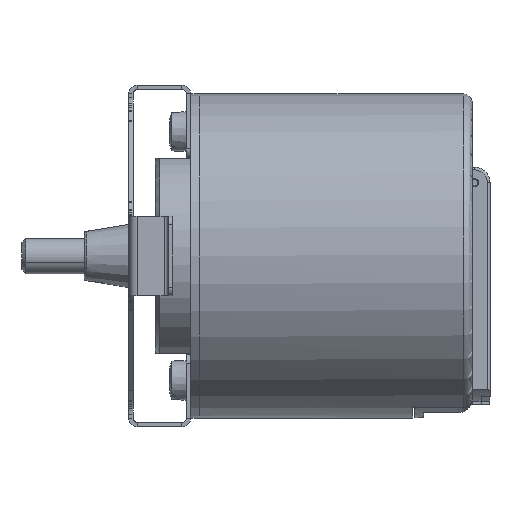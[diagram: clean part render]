
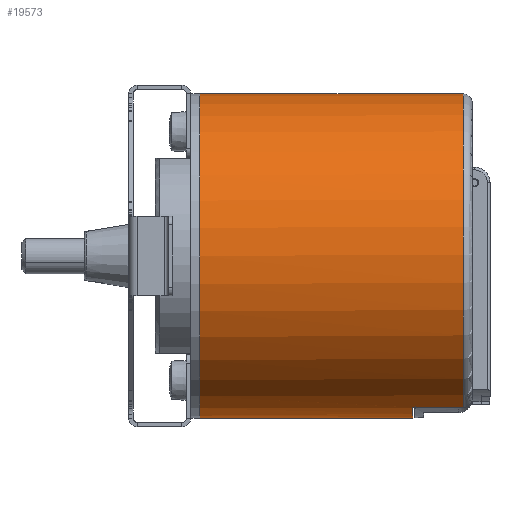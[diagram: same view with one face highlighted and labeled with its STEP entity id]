
A CAD part, front view. The second image highlights one B-rep face of the part: STEP entity #19573.
In plain terms, the highlighted cylindrical face has radius 18.25 mm (diameter 36.5 mm), a partial arc.
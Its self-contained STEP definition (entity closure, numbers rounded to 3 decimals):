
#10 = CARTESIAN_POINT ( 'NONE',  ( 29.218, -6.5, -17.053 ) ) ;
#59 = VERTEX_POINT ( 'NONE', #16660 ) ;
#149 = CARTESIAN_POINT ( 'NONE',  ( 29.03, -6.352, -17.109 ) ) ;
#527 = ORIENTED_EDGE ( 'NONE', *, *, #9268, .F. ) ;
#684 = EDGE_CURVE ( 'NONE', #11204, #59, #16759, .T. ) ;
#986 = EDGE_LOOP ( 'NONE', ( #18709, #15014, #10897, #1327, #18343, #8489, #527 ) ) ;
#1105 = CARTESIAN_POINT ( 'NONE',  ( 5., 0., 0. ) ) ;
#1327 = ORIENTED_EDGE ( 'NONE', *, *, #16029, .F. ) ;
#1708 = CARTESIAN_POINT ( 'NONE',  ( 29.139, -6.465, -17.067 ) ) ;
#1886 = CIRCLE ( 'NONE', #3994, 18.25 ) ;
#2257 = CARTESIAN_POINT ( 'NONE',  ( 5., 0., 18.25 ) ) ;
#3079 = AXIS2_PLACEMENT_3D ( 'NONE', #4991, #17091, #7872 ) ;
#3780 = LINE ( 'NONE', #17188, #19741 ) ;
#3994 = AXIS2_PLACEMENT_3D ( 'NONE', #6678, #17535, #11333 ) ;
#4204 = VERTEX_POINT ( 'NONE', #13070 ) ;
#4476 = CARTESIAN_POINT ( 'NONE',  ( 34.7, -6.5, -17.053 ) ) ;
#4833 = FACE_OUTER_BOUND ( 'NONE', #986, .T. ) ;
#4991 = CARTESIAN_POINT ( 'NONE',  ( 5., 0., 0. ) ) ;
#5657 = DIRECTION ( 'NONE',  ( -1., 0., 0. ) ) ;
#5847 = DIRECTION ( 'NONE',  ( 0., 0., 1. ) ) ;
#6678 = CARTESIAN_POINT ( 'NONE',  ( 34.7, 0., 0. ) ) ;
#6751 = LINE ( 'NONE', #12776, #7503 ) ;
#7503 = VECTOR ( 'NONE', #8252, 1000. ) ;
#7595 = CARTESIAN_POINT ( 'NONE',  ( 29., 0., 0. ) ) ;
#7673 = CARTESIAN_POINT ( 'NONE',  ( 34.7, 0., 18.25 ) ) ;
#7872 = DIRECTION ( 'NONE',  ( 0., 0., 1. ) ) ;
#7883 = AXIS2_PLACEMENT_3D ( 'NONE', #7595, #9071, #13636 ) ;
#8078 = EDGE_CURVE ( 'NONE', #17822, #12101, #6751, .T. ) ;
#8252 = DIRECTION ( 'NONE',  ( -1., 0., 0. ) ) ;
#8489 = ORIENTED_EDGE ( 'NONE', *, *, #8078, .T. ) ;
#9071 = DIRECTION ( 'NONE',  ( 1., 0., 0. ) ) ;
#9268 = EDGE_CURVE ( 'NONE', #14018, #12101, #11492, .T. ) ;
#10057 = CYLINDRICAL_SURFACE ( 'NONE', #3079, 18.25 ) ;
#10573 = AXIS2_PLACEMENT_3D ( 'NONE', #1105, #5657, #5847 ) ;
#10897 = ORIENTED_EDGE ( 'NONE', *, *, #684, .T. ) ;
#11204 = VERTEX_POINT ( 'NONE', #12342 ) ;
#11333 = DIRECTION ( 'NONE',  ( 0., 0., 1. ) ) ;
#11492 = CIRCLE ( 'NONE', #10573, 18.25 ) ;
#12101 = VERTEX_POINT ( 'NONE', #2257 ) ;
#12306 = CARTESIAN_POINT ( 'NONE',  ( 5., 0., -18.25 ) ) ;
#12308 = CARTESIAN_POINT ( 'NONE',  ( 29., -6.2, -17.165 ) ) ;
#12342 = CARTESIAN_POINT ( 'NONE',  ( 29., -6.2, -17.165 ) ) ;
#12511 = CARTESIAN_POINT ( 'NONE',  ( 29.3, -6.5, -17.053 ) ) ;
#12776 = CARTESIAN_POINT ( 'NONE',  ( 5., 0., 18.25 ) ) ;
#13070 = CARTESIAN_POINT ( 'NONE',  ( 29., 0., -18.25 ) ) ;
#13180 = EDGE_CURVE ( 'NONE', #11204, #4204, #13253, .T. ) ;
#13253 = CIRCLE ( 'NONE', #7883, 18.25 ) ;
#13636 = DIRECTION ( 'NONE',  ( 0., 0., 1. ) ) ;
#14018 = VERTEX_POINT ( 'NONE', #12306 ) ;
#14710 = CARTESIAN_POINT ( 'NONE',  ( 5., -6.5, -17.053 ) ) ;
#15014 = ORIENTED_EDGE ( 'NONE', *, *, #13180, .F. ) ;
#15721 = DIRECTION ( 'NONE',  ( -1., 0., 0. ) ) ;
#15750 = VECTOR ( 'NONE', #19232, 1000. ) ;
#16029 = EDGE_CURVE ( 'NONE', #19571, #59, #16753, .T. ) ;
#16660 = CARTESIAN_POINT ( 'NONE',  ( 29.3, -6.5, -17.053 ) ) ;
#16753 = LINE ( 'NONE', #14710, #15750 ) ;
#16759 = B_SPLINE_CURVE_WITH_KNOTS ( 'NONE', 3,
 ( #12308, #18714, #149, #1708, #10, #12511 ),
 .UNSPECIFIED., .F., .F.,
 ( 4, 2, 4 ),
 ( 0., 0., 0. ),
 .UNSPECIFIED. ) ;
#17091 = DIRECTION ( 'NONE',  ( -1., 0., 0. ) ) ;
#17188 = CARTESIAN_POINT ( 'NONE',  ( 5., 0., -18.25 ) ) ;
#17535 = DIRECTION ( 'NONE',  ( -1., 0., 0. ) ) ;
#17822 = VERTEX_POINT ( 'NONE', #7673 ) ;
#18343 = ORIENTED_EDGE ( 'NONE', *, *, #18785, .T. ) ;
#18599 = EDGE_CURVE ( 'NONE', #4204, #14018, #3780, .T. ) ;
#18709 = ORIENTED_EDGE ( 'NONE', *, *, #18599, .F. ) ;
#18714 = CARTESIAN_POINT ( 'NONE',  ( 29., -6.277, -17.137 ) ) ;
#18785 = EDGE_CURVE ( 'NONE', #19571, #17822, #1886, .T. ) ;
#19232 = DIRECTION ( 'NONE',  ( -1., 0., 0. ) ) ;
#19571 = VERTEX_POINT ( 'NONE', #4476 ) ;
#19573 = ADVANCED_FACE ( 'NONE', ( #4833 ), #10057, .T. ) ;
#19741 = VECTOR ( 'NONE', #15721, 1000. ) ;
